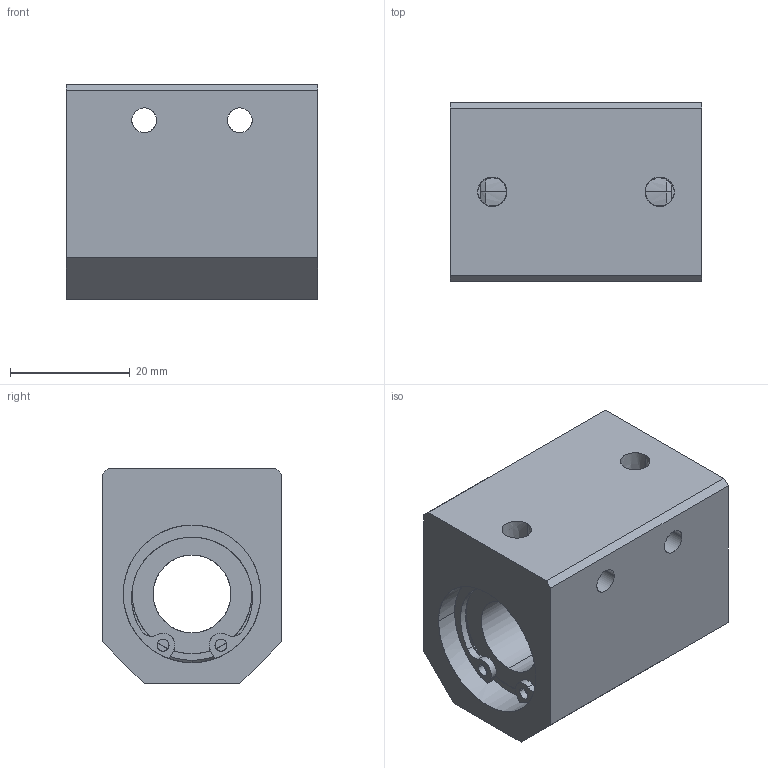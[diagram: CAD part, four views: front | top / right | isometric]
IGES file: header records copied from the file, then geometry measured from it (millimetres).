
Global section: file name: No Iges File Name specified; native system: AutoDesk Inventor R10; preprocessor: AutoDesk Inventor Iges Exporter R10; author: No Author specified; organization: No Organization specified; date: 20101213.093925; units: millimetre
Bounding box: 42 x 30 x 36 mm (x, y, z)
Surface area: 11068.1 mm2 (no closed solid volume)
Topology: 0 solids, 0 shells, 106 faces, 812 edges, 812 vertices
Faces by surface type: bspline 106
